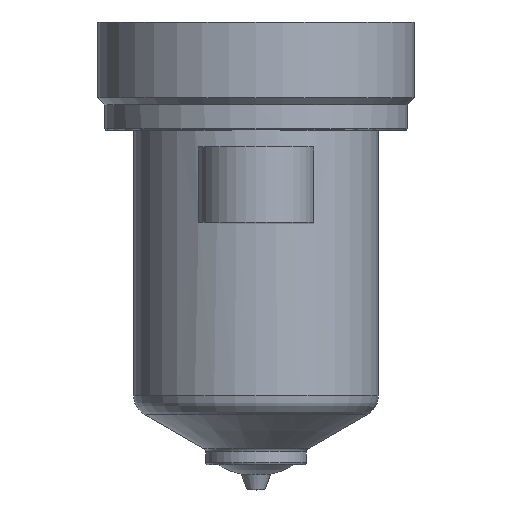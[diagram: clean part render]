
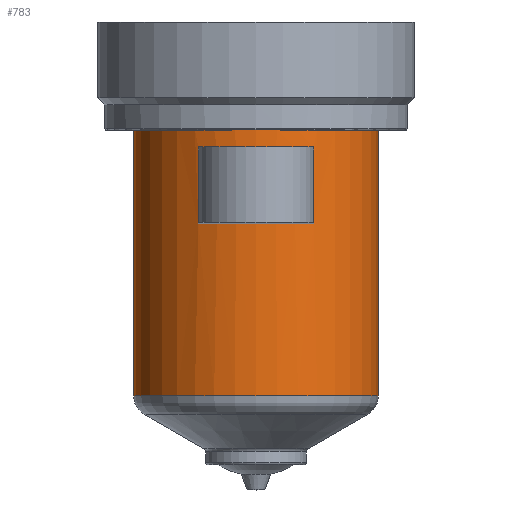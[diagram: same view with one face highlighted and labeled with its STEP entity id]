
A CAD part, top view. The second image highlights one B-rep face of the part: STEP entity #783.
In plain terms, the highlighted cylindrical face has radius 17 mm (diameter 34 mm), a partial arc.
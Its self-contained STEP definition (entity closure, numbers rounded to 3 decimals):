
#191=DIRECTION('',(0.,-1.,0.));
#192=VECTOR('',#191,36.906);
#193=CARTESIAN_POINT('',(17.,0.,0.));
#194=LINE('',#193,#192);
#195=CARTESIAN_POINT('',(0.,-36.906,0.));
#196=DIRECTION('',(0.,1.,0.));
#197=DIRECTION('',(-1.,0.,0.));
#198=AXIS2_PLACEMENT_3D('',#195,#196,#197);
#200=DIRECTION('',(0.,1.,0.));
#201=VECTOR('',#200,36.906);
#202=CARTESIAN_POINT('',(-17.,-36.906,0.));
#203=LINE('',#202,#201);
#204=CARTESIAN_POINT('',(0.,0.,0.));
#205=DIRECTION('',(0.,1.,0.));
#206=DIRECTION('',(-1.,0.,0.));
#207=AXIS2_PLACEMENT_3D('',#204,#205,#206);
#353=DIRECTION('',(0.,1.,0.));
#354=VECTOR('',#353,10.5);
#355=CARTESIAN_POINT('',(-8.,-13.,15.));
#356=LINE('',#355,#354);
#357=CARTESIAN_POINT('',(0.,-13.,0.));
#358=DIRECTION('',(0.,1.,0.));
#359=DIRECTION('',(-0.471,0.,0.882));
#360=AXIS2_PLACEMENT_3D('',#357,#358,#359);
#383=CARTESIAN_POINT('',(0.,-2.5,0.));
#384=DIRECTION('',(0.,-1.,0.));
#385=DIRECTION('',(0.471,0.,0.882));
#386=AXIS2_PLACEMENT_3D('',#383,#384,#385);
#401=DIRECTION('',(0.,1.,0.));
#402=VECTOR('',#401,10.5);
#403=CARTESIAN_POINT('',(8.,-13.,15.));
#404=LINE('',#403,#402);
#462=CARTESIAN_POINT('',(-17.,0.,0.));
#463=CARTESIAN_POINT('',(17.,0.,0.));
#464=VERTEX_POINT('',#462);
#465=VERTEX_POINT('',#463);
#474=CARTESIAN_POINT('',(-8.,-2.5,15.));
#475=VERTEX_POINT('',#474);
#476=CARTESIAN_POINT('',(8.,-2.5,15.));
#477=VERTEX_POINT('',#476);
#514=CARTESIAN_POINT('',(17.,-36.906,0.));
#515=VERTEX_POINT('',#514);
#524=CARTESIAN_POINT('',(-17.,-36.906,0.));
#525=VERTEX_POINT('',#524);
#542=CARTESIAN_POINT('',(-8.,-13.,15.));
#543=CARTESIAN_POINT('',(8.,-13.,15.));
#544=VERTEX_POINT('',#542);
#545=VERTEX_POINT('',#543);
#761=CARTESIAN_POINT('',(0.,16.4,0.));
#762=DIRECTION('',(0.,-1.,0.));
#763=DIRECTION('',(-1.,0.,0.));
#764=AXIS2_PLACEMENT_3D('',#761,#762,#763);
#765=CYLINDRICAL_SURFACE('',#764,17.);
#766=ORIENTED_EDGE('',*,*,#755,.T.);
#768=ORIENTED_EDGE('',*,*,#767,.F.);
#769=ORIENTED_EDGE('',*,*,#751,.T.);
#770=ORIENTED_EDGE('',*,*,#741,.T.);
#771=EDGE_LOOP('',(#766,#768,#769,#770));
#772=FACE_OUTER_BOUND('',#771,.F.);
#774=ORIENTED_EDGE('',*,*,#773,.F.);
#776=ORIENTED_EDGE('',*,*,#775,.T.);
#778=ORIENTED_EDGE('',*,*,#777,.T.);
#780=ORIENTED_EDGE('',*,*,#779,.T.);
#781=EDGE_LOOP('',(#774,#776,#778,#780));
#782=FACE_BOUND('',#781,.F.);
#783=ADVANCED_FACE('',(#772,#782),#765,.T.);
#199=CIRCLE('',#198,17.);
#208=CIRCLE('',#207,17.);
#361=CIRCLE('',#360,17.);
#387=CIRCLE('',#386,17.);
#741=EDGE_CURVE('',#464,#465,#208,.T.);
#751=EDGE_CURVE('',#525,#464,#203,.T.);
#755=EDGE_CURVE('',#465,#515,#194,.T.);
#767=EDGE_CURVE('',#525,#515,#199,.T.);
#773=EDGE_CURVE('',#544,#475,#356,.T.);
#775=EDGE_CURVE('',#544,#545,#361,.T.);
#777=EDGE_CURVE('',#545,#477,#404,.T.);
#779=EDGE_CURVE('',#477,#475,#387,.T.);
